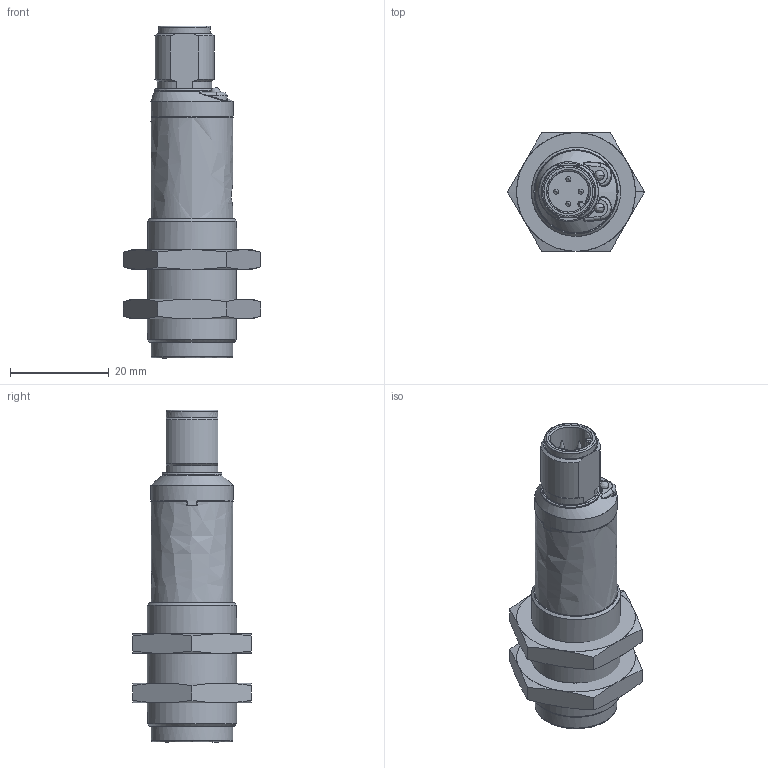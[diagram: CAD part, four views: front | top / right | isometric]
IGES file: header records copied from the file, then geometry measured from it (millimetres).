
Global section: file name: D:\CS\S15\DSD-0516.igs; native system: NX V7.5; preprocessor: SIEMENS PLM Software NX 7.5; date: 20130305.124044; units: millimetre
Bounding box: 27.71 x 24 x 67.1 mm (x, y, z)
Surface area: 25660.7 mm2 (no closed solid volume)
Topology: 0 solids, 0 shells, 1404 faces, 12039 edges, 11935 vertices
Faces by surface type: bspline 1404
